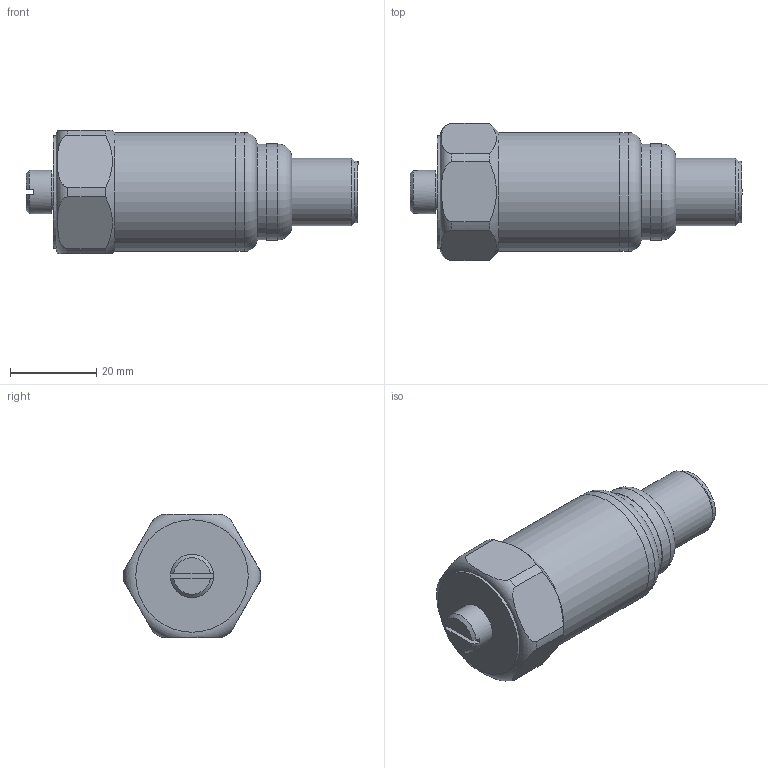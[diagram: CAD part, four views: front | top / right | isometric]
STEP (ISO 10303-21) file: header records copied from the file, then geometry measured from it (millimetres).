
FILE_DESCRIPTION(/* description */ (''),/* implementation_level */ '2;1');
FILE_NAME(/* name */ 'Z:\Engineering\Drawings\3D Library\Assemblies\Website\HS-4200XXX5010.stp',/* time_stamp */ '2023-04-05T21:29:17+01:00',/* author */ ('Ricardo.Peneda'),/* organization */ (''),/* preprocessor_version */ 'ST-DEVELOPER v18.1',/* originating_system */ 'Autodesk Inventor 2021',/* authorisation */ '');
FILE_SCHEMA (('AUTOMOTIVE_DESIGN { 1 0 10303 214 3 1 1 }'));
Length unit declared in the file: inch
Products named in the file (1): HS-4200XXX5010_Shrinkwrap_1
Bounding box: 76.77 x 31.69 x 28.5 mm (x, y, z)
Volume: 16210.3 mm3; surface area: 12280.3 mm2
Topology: 4 solids, 4 shells, 71 faces, 186 edges, 134 vertices
Faces by surface type: plane 33, cylinder 26, cone 8, torus 4
Full cylindrical faces by diameter (mm): 5 x1, 6.3 x1, 6.35 x1, 7 x1, 7.5 x1, 8.5 x1, 10 x1, 11.37 x1, 14.28 x1, 15.7 x1, 19 x1, 20 x1, 22 x1, 22.2 x1, 23.3 x1, 25.3 x2, 26 x1, 27.5 x2
Entity records: 2510 total; most frequent: CARTESIAN_POINT 554, DIRECTION 420, ORIENTED_EDGE 372, EDGE_CURVE 186, AXIS2_PLACEMENT_3D 184, VERTEX_POINT 134, CIRCLE 112, EDGE_LOOP 84
